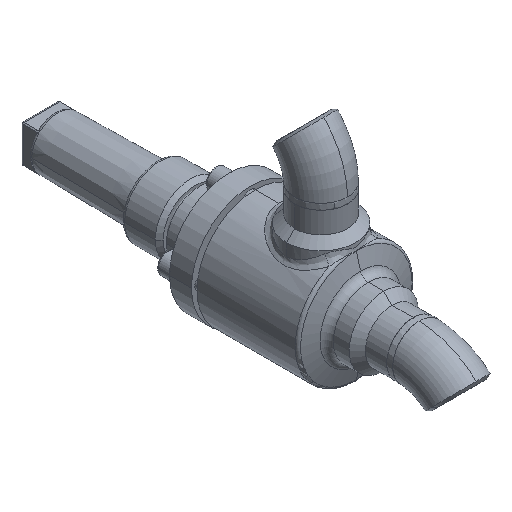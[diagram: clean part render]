
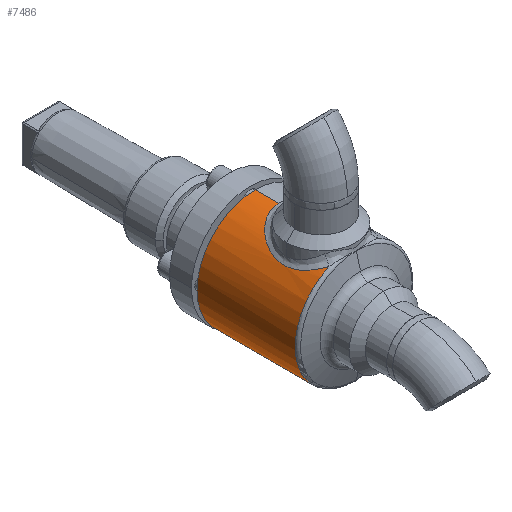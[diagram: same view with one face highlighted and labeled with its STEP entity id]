
A CAD part, isometric view. The second image highlights one B-rep face of the part: STEP entity #7486.
In plain terms, the highlighted cylindrical face has radius 37 mm (diameter 74 mm), a partial arc.
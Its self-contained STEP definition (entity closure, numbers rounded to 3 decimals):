
#373 = ORIENTED_EDGE ( 'NONE', *, *, #31216, .F. ) ;
#620 = B_SPLINE_CURVE_WITH_KNOTS ( 'NONE', 3,
 ( #621, #622, #623, #624, #625, #642, #643, #644, #645, #646, #647, #648, #649, #650, #651, #652, #653, #654, #655, #656, #657, #677, #678, #679, #680, #681, #682, #683, #684, #685, #686, #687, #688, #689, #690, #691, #692, #712, #713, #714, #715, #716, #717, #718, #719, #720, #721, #722 ),
 .UNSPECIFIED., .F., .F.,
 ( 4, 2, 2, 2, 2, 2, 2, 2, 2, 2, 2, 2, 2, 2, 2, 2, 2, 2, 2, 2, 2, 2, 2, 4 ),
 ( 0., 0.004, 0.008, 0.01, 0.012, 0.016, 0.018, 0.02, 0.024, 0.026, 0.028, 0.03, 0.032, 0.036, 0.04, 0.042, 0.044, 0.048, 0.05, 0.052, 0.056, 0.058, 0.06, 0.064 ),
 .UNSPECIFIED. ) ;
#621 = CARTESIAN_POINT ( 'NONE',  ( -15.535, -62.446, 33.581 ) ) ;
#622 = CARTESIAN_POINT ( 'NONE',  ( -16.452, -61.548, 33.157 ) ) ;
#623 = CARTESIAN_POINT ( 'NONE',  ( -17.286, -60.594, 32.725 ) ) ;
#624 = CARTESIAN_POINT ( 'NONE',  ( -18.811, -58.577, 31.873 ) ) ;
#625 = CARTESIAN_POINT ( 'NONE',  ( -19.502, -57.514, 31.452 ) ) ;
#642 = CARTESIAN_POINT ( 'NONE',  ( -20.434, -55.835, 30.848 ) ) ;
#643 = CARTESIAN_POINT ( 'NONE',  ( -20.728, -55.259, 30.65 ) ) ;
#644 = CARTESIAN_POINT ( 'NONE',  ( -21.277, -54.088, 30.272 ) ) ;
#645 = CARTESIAN_POINT ( 'NONE',  ( -21.531, -53.494, 30.092 ) ) ;
#646 = CARTESIAN_POINT ( 'NONE',  ( -22.233, -51.685, 29.581 ) ) ;
#647 = CARTESIAN_POINT ( 'NONE',  ( -22.624, -50.442, 29.28 ) ) ;
#648 = CARTESIAN_POINT ( 'NONE',  ( -23.09, -48.518, 28.912 ) ) ;
#649 = CARTESIAN_POINT ( 'NONE',  ( -23.225, -47.864, 28.803 ) ) ;
#650 = CARTESIAN_POINT ( 'NONE',  ( -23.453, -46.548, 28.618 ) ) ;
#651 = CARTESIAN_POINT ( 'NONE',  ( -23.545, -45.887, 28.542 ) ) ;
#652 = CARTESIAN_POINT ( 'NONE',  ( -23.756, -43.897, 28.367 ) ) ;
#653 = CARTESIAN_POINT ( 'NONE',  ( -23.81, -42.56, 28.321 ) ) ;
#654 = CARTESIAN_POINT ( 'NONE',  ( -23.758, -40.538, 28.365 ) ) ;
#655 = CARTESIAN_POINT ( 'NONE',  ( -23.718, -39.862, 28.398 ) ) ;
#656 = CARTESIAN_POINT ( 'NONE',  ( -23.596, -38.528, 28.5 ) ) ;
#657 = CARTESIAN_POINT ( 'NONE',  ( -23.513, -37.867, 28.569 ) ) ;
#677 = CARTESIAN_POINT ( 'NONE',  ( -23.304, -36.555, 28.739 ) ) ;
#678 = CARTESIAN_POINT ( 'NONE',  ( -23.179, -35.905, 28.84 ) ) ;
#679 = CARTESIAN_POINT ( 'NONE',  ( -22.886, -34.615, 29.073 ) ) ;
#680 = CARTESIAN_POINT ( 'NONE',  ( -22.718, -33.974, 29.205 ) ) ;
#681 = CARTESIAN_POINT ( 'NONE',  ( -22.153, -32.08, 29.639 ) ) ;
#682 = CARTESIAN_POINT ( 'NONE',  ( -21.7, -30.866, 29.975 ) ) ;
#683 = CARTESIAN_POINT ( 'NONE',  ( -20.645, -28.526, 30.712 ) ) ;
#684 = CARTESIAN_POINT ( 'NONE',  ( -20.043, -27.4, 31.112 ) ) ;
#685 = CARTESIAN_POINT ( 'NONE',  ( -19.02, -25.773, 31.74 ) ) ;
#686 = CARTESIAN_POINT ( 'NONE',  ( -18.66, -25.243, 31.953 ) ) ;
#687 = CARTESIAN_POINT ( 'NONE',  ( -17.908, -24.217, 32.381 ) ) ;
#688 = CARTESIAN_POINT ( 'NONE',  ( -17.515, -23.72, 32.595 ) ) ;
#689 = CARTESIAN_POINT ( 'NONE',  ( -16.284, -22.274, 33.237 ) ) ;
#690 = CARTESIAN_POINT ( 'NONE',  ( -15.395, -21.372, 33.662 ) ) ;
#691 = CARTESIAN_POINT ( 'NONE',  ( -13.943, -20.115, 34.276 ) ) ;
#692 = CARTESIAN_POINT ( 'NONE',  ( -13.437, -19.71, 34.478 ) ) ;
#712 = CARTESIAN_POINT ( 'NONE',  ( -12.398, -18.947, 34.865 ) ) ;
#713 = CARTESIAN_POINT ( 'NONE',  ( -11.864, -18.588, 35.051 ) ) ;
#714 = CARTESIAN_POINT ( 'NONE',  ( -10.215, -17.575, 35.581 ) ) ;
#715 = CARTESIAN_POINT ( 'NONE',  ( -9.054, -16.989, 35.897 ) ) ;
#716 = CARTESIAN_POINT ( 'NONE',  ( -7.207, -16.258, 36.297 ) ) ;
#717 = CARTESIAN_POINT ( 'NONE',  ( -6.575, -16.041, 36.417 ) ) ;
#718 = CARTESIAN_POINT ( 'NONE',  ( -5.29, -15.666, 36.626 ) ) ;
#719 = CARTESIAN_POINT ( 'NONE',  ( -4.64, -15.508, 36.714 ) ) ;
#720 = CARTESIAN_POINT ( 'NONE',  ( -2.677, -15.129, 36.926 ) ) ;
#721 = CARTESIAN_POINT ( 'NONE',  ( -1.349, -15., 37. ) ) ;
#722 = CARTESIAN_POINT ( 'NONE',  ( 0., -15., 37. ) ) ;
#894 = CARTESIAN_POINT ( 'NONE',  ( 0., 0., -37. ) ) ;
#1140 = CIRCLE ( 'NONE', #1141, 37. ) ;
#1141 = AXIS2_PLACEMENT_3D ( 'NONE', #1142, #1143, #1144 ) ;
#1142 = CARTESIAN_POINT ( 'NONE',  ( 0., 0., 0. ) ) ;
#1143 = DIRECTION ( 'NONE',  ( 0., 1., 0. ) ) ;
#1144 = DIRECTION ( 'NONE',  ( 0., 0., 1. ) ) ;
#1317 = ORIENTED_EDGE ( 'NONE', *, *, #13383, .T. ) ;
#1679 = LINE ( 'NONE', #1680, #1681 ) ;
#1680 = CARTESIAN_POINT ( 'NONE',  ( 0., -68., -37. ) ) ;
#1681 = VECTOR ( 'NONE', #1682, 1000. ) ;
#1682 = DIRECTION ( 'NONE',  ( 0., 1., 0. ) ) ;
#1752 = CARTESIAN_POINT ( 'NONE',  ( -15.535, -62.446, 33.581 ) ) ;
#2097 = CIRCLE ( 'NONE', #2098, 37. ) ;
#2098 = AXIS2_PLACEMENT_3D ( 'NONE', #2099, #2100, #2101 ) ;
#2099 = CARTESIAN_POINT ( 'NONE',  ( 0., -62.446, 0. ) ) ;
#2100 = DIRECTION ( 'NONE',  ( 0., 1., 0. ) ) ;
#2101 = DIRECTION ( 'NONE',  ( 0., 0., -1. ) ) ;
#2420 = EDGE_CURVE ( 'NONE', #4051, #21632, #620, .T. ) ;
#19434 = LINE ( 'NONE', #19453, #19454 ) ;
#19453 = CARTESIAN_POINT ( 'NONE',  ( 0., -68., 37. ) ) ;
#19454 = VECTOR ( 'NONE', #19455, 1000. ) ;
#19455 = DIRECTION ( 'NONE',  ( 0., 1., 0. ) ) ;
#3104 = ORIENTED_EDGE ( 'NONE', *, *, #2420, .T. ) ;
#4051 = VERTEX_POINT ( 'NONE', #1752 ) ;
#4462 = EDGE_CURVE ( 'NONE', #28052, #4051, #2097, .T. ) ;
#5143 = ORIENTED_EDGE ( 'NONE', *, *, #4462, .T. ) ;
#21632 = VERTEX_POINT ( 'NONE', #27810 ) ;
#6092 = ORIENTED_EDGE ( 'NONE', *, *, #8616, .F. ) ;
#6159 = VERTEX_POINT ( 'NONE', #28830 ) ;
#7042 = EDGE_LOOP ( 'NONE', ( #6092, #5143, #3104, #1317, #373 ) ) ;
#7486 = ADVANCED_FACE ( 'NONE', ( #31006 ), #31007, .T. ) ;
#8199 = VERTEX_POINT ( 'NONE', #894 ) ;
#8616 = EDGE_CURVE ( 'NONE', #28052, #8199, #1679, .T. ) ;
#27635 = CARTESIAN_POINT ( 'NONE',  ( 0., -62.446, -37. ) ) ;
#27810 = CARTESIAN_POINT ( 'NONE',  ( 0., -15., 37. ) ) ;
#28052 = VERTEX_POINT ( 'NONE', #27635 ) ;
#28830 = CARTESIAN_POINT ( 'NONE',  ( 0., 0., 37. ) ) ;
#13383 = EDGE_CURVE ( 'NONE', #21632, #6159, #19434, .T. ) ;
#31006 = FACE_OUTER_BOUND ( 'NONE', #7042, .T. ) ;
#31007 = CYLINDRICAL_SURFACE ( 'NONE', #31008, 37. ) ;
#31008 = AXIS2_PLACEMENT_3D ( 'NONE', #31009, #31010, #31011 ) ;
#31009 = CARTESIAN_POINT ( 'NONE',  ( 0., -68., 0. ) ) ;
#31010 = DIRECTION ( 'NONE',  ( 0., 1., 0. ) ) ;
#31011 = DIRECTION ( 'NONE',  ( 0., 0., 1. ) ) ;
#31216 = EDGE_CURVE ( 'NONE', #8199, #6159, #1140, .T. ) ;
